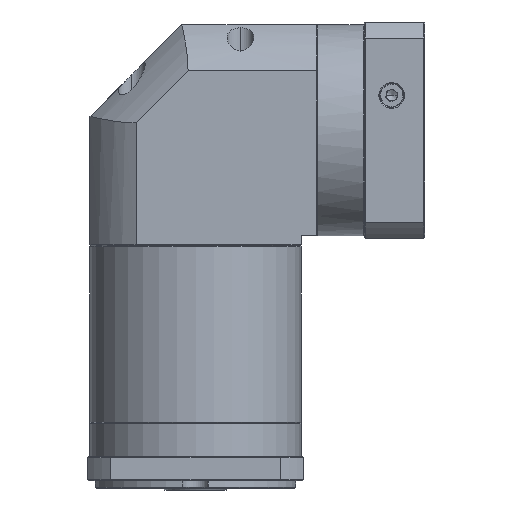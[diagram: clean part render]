
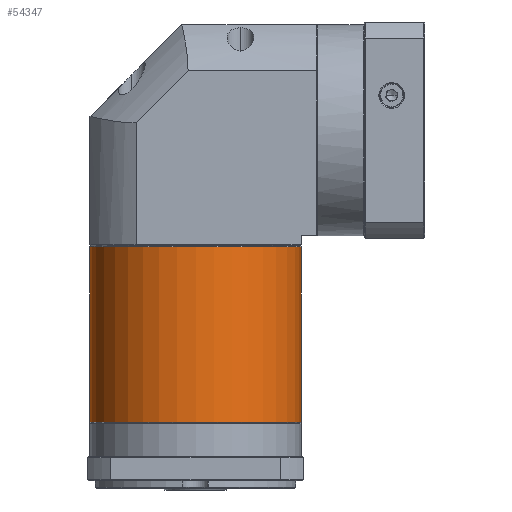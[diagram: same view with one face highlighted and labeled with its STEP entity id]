
A CAD part, front view. The second image highlights one B-rep face of the part: STEP entity #54347.
In plain terms, the highlighted cylindrical face has radius 57.5 mm (diameter 115 mm), a partial arc.
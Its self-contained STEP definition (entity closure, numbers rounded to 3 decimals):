
#930 = CARTESIAN_POINT ( 'NONE',  ( -7.768, 61.958, -156.499 ) ) ;
#2876 = EDGE_CURVE ( 'NONE', #47847, #82405, #11171, .T. ) ;
#5612 = CARTESIAN_POINT ( 'NONE',  ( 49.732, 4.458, -60.788 ) ) ;
#5975 = DIRECTION ( 'NONE',  ( -1., 0., 0. ) ) ;
#7188 = DIRECTION ( 'NONE',  ( 0., 0., -1. ) ) ;
#7940 = EDGE_CURVE ( 'NONE', #47847, #26746, #61460, .T. ) ;
#9093 = ORIENTED_EDGE ( 'NONE', *, *, #7940, .F. ) ;
#11171 = CIRCLE ( 'NONE', #24323, 57.5 ) ;
#21229 = LINE ( 'NONE', #106243, #123691 ) ;
#21797 = ORIENTED_EDGE ( 'NONE', *, *, #120278, .T. ) ;
#24323 = AXIS2_PLACEMENT_3D ( 'NONE', #52805, #112210, #72761 ) ;
#26746 = VERTEX_POINT ( 'NONE', #87572 ) ;
#29244 = AXIS2_PLACEMENT_3D ( 'NONE', #95471, #45586, #46006 ) ;
#35851 = AXIS2_PLACEMENT_3D ( 'NONE', #65506, #84091, #5975 ) ;
#39852 = EDGE_CURVE ( 'NONE', #82405, #47759, #82567, .T. ) ;
#45586 = DIRECTION ( 'NONE',  ( 0., 0., -1. ) ) ;
#46006 = DIRECTION ( 'NONE',  ( -1., 0., 0. ) ) ;
#47759 = VERTEX_POINT ( 'NONE', #52402 ) ;
#47847 = VERTEX_POINT ( 'NONE', #124343 ) ;
#52402 = CARTESIAN_POINT ( 'NONE',  ( -7.768, 61.958, -60.788 ) ) ;
#52778 = ORIENTED_EDGE ( 'NONE', *, *, #2876, .T. ) ;
#52805 = CARTESIAN_POINT ( 'NONE',  ( 49.732, 61.958, -60.788 ) ) ;
#52901 = CARTESIAN_POINT ( 'NONE',  ( 107.232, 61.958, -60.288 ) ) ;
#54347 = ADVANCED_FACE ( 'NONE', ( #127386 ), #104083, .T. ) ;
#54979 = CARTESIAN_POINT ( 'NONE',  ( 49.732, 61.958, -60.288 ) ) ;
#56907 = DIRECTION ( 'NONE',  ( 0., 0., -1. ) ) ;
#61460 = LINE ( 'NONE', #52901, #69285 ) ;
#65506 = CARTESIAN_POINT ( 'NONE',  ( 49.732, 61.958, -156.499 ) ) ;
#69285 = VECTOR ( 'NONE', #73292, 1000. ) ;
#72761 = DIRECTION ( 'NONE',  ( -1., 0., 0. ) ) ;
#73292 = DIRECTION ( 'NONE',  ( 0., 0., -1. ) ) ;
#73936 = VERTEX_POINT ( 'NONE', #930 ) ;
#76902 = EDGE_LOOP ( 'NONE', ( #9093, #52778, #98559, #83632, #21797 ) ) ;
#82405 = VERTEX_POINT ( 'NONE', #5612 ) ;
#82567 = CIRCLE ( 'NONE', #29244, 57.5 ) ;
#83632 = ORIENTED_EDGE ( 'NONE', *, *, #101264, .T. ) ;
#84091 = DIRECTION ( 'NONE',  ( 0., 0., 1. ) ) ;
#87572 = CARTESIAN_POINT ( 'NONE',  ( 107.232, 61.958, -156.499 ) ) ;
#95256 = DIRECTION ( 'NONE',  ( -1., 0., 0. ) ) ;
#95471 = CARTESIAN_POINT ( 'NONE',  ( 49.732, 61.958, -60.788 ) ) ;
#98559 = ORIENTED_EDGE ( 'NONE', *, *, #39852, .T. ) ;
#101264 = EDGE_CURVE ( 'NONE', #47759, #73936, #21229, .T. ) ;
#104083 = CYLINDRICAL_SURFACE ( 'NONE', #121133, 57.5 ) ;
#106243 = CARTESIAN_POINT ( 'NONE',  ( -7.768, 61.958, -60.288 ) ) ;
#111382 = CIRCLE ( 'NONE', #35851, 57.5 ) ;
#112210 = DIRECTION ( 'NONE',  ( 0., 0., -1. ) ) ;
#120278 = EDGE_CURVE ( 'NONE', #73936, #26746, #111382, .T. ) ;
#121133 = AXIS2_PLACEMENT_3D ( 'NONE', #54979, #7188, #95256 ) ;
#123691 = VECTOR ( 'NONE', #56907, 1000. ) ;
#124343 = CARTESIAN_POINT ( 'NONE',  ( 107.232, 61.958, -60.788 ) ) ;
#127386 = FACE_OUTER_BOUND ( 'NONE', #76902, .T. ) ;
